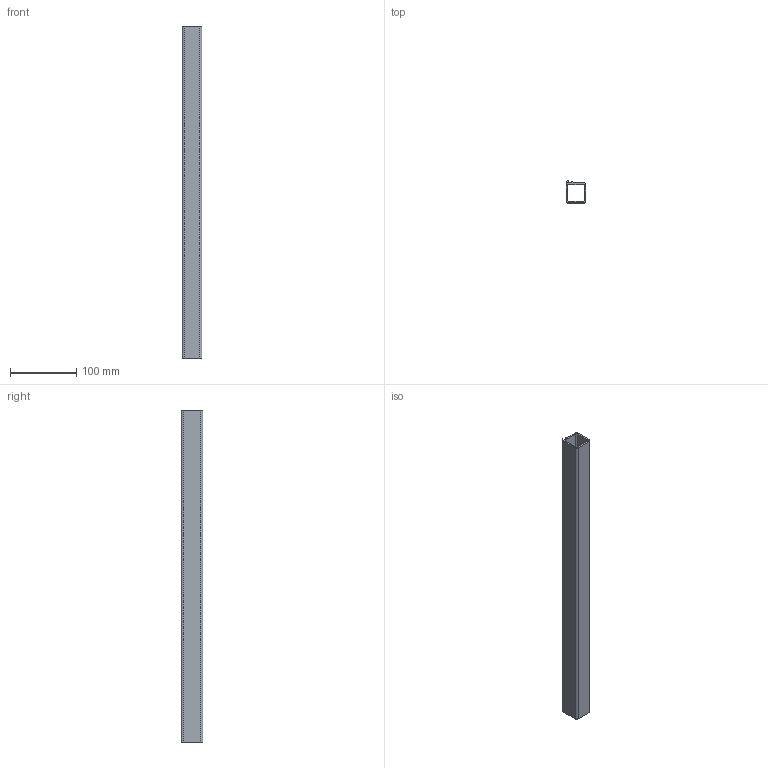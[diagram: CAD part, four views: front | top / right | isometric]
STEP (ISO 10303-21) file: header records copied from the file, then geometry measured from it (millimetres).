
FILE_DESCRIPTION (( 'STEP AP214' ), '1' );
FILE_NAME ('A40702.step', '2024-12-03T16:11:22', ( '' ), ( '' ), 'SwSTEP 2.0', 'SolidWorks 2023', '' );
FILE_SCHEMA (( 'AUTOMOTIVE_DESIGN' ));
Length unit declared in the file: millimetre
Products named in the file (1): A40702
Bounding box: 30 x 32.8 x 500 mm (x, y, z)
Volume: 115165.2 mm3; surface area: 113988.8 mm2
Topology: 1 solids, 1 shells, 27 faces, 75 edges, 50 vertices
Faces by surface type: plane 15, cylinder 12
Entity records: 900 total; most frequent: DIRECTION 155, CARTESIAN_POINT 153, ORIENTED_EDGE 150, EDGE_CURVE 75, AXIS2_PLACEMENT_3D 52, VECTOR 51, LINE 51, VERTEX_POINT 50
